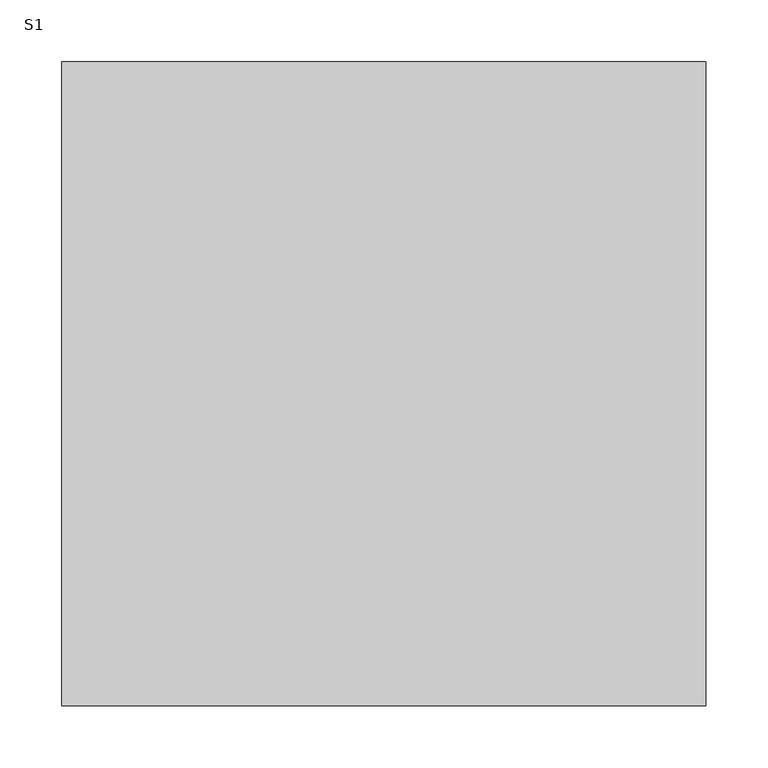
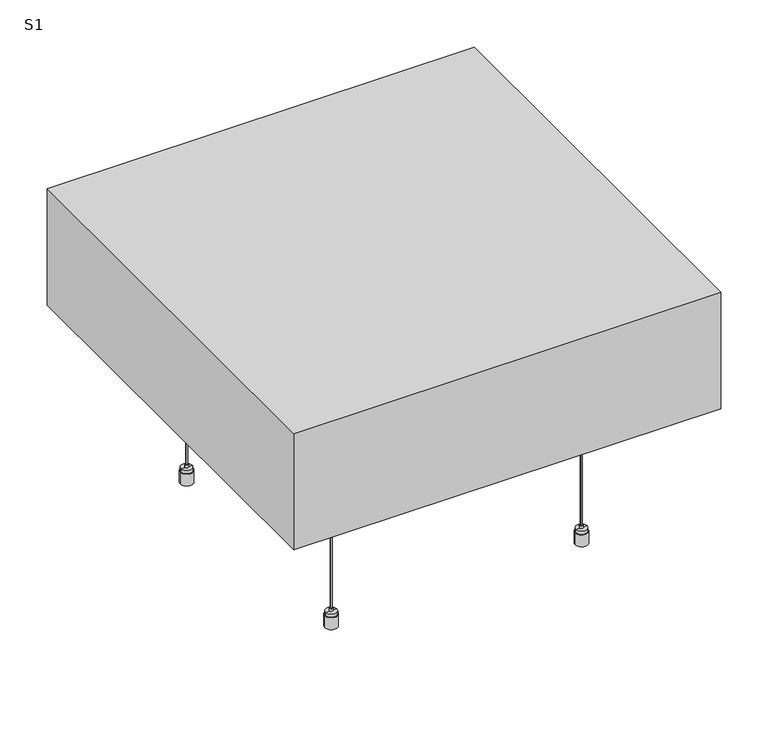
"""IFC4 building model written with IfcOpenShell, lengths in millimetres: proxy geometry, OWA Corpus : S1."""

from ifc_helpers import new_model, si_unit, point, frame, frame_2d, origin, place, context, project, spatial, polyline, circle_curve, trimmed, segment, composite_curve, outline, extrude, faceted_brep, source, transform, mapped, element, save
from ifc_brep_helpers import plane_surface, cylinder_surface, revolved_surface, advanced_brep


def s1_dd011107(model_context):
    return source(origin(), model_context, "Body", "SolidModel", [
        advanced_brep(
        [(-281.0, -152.5, 0.0), (-273.2593825, -152.5, 0.0), (-288.7406175, -152.5, 0.0), (-273.2593825, -152.5, 15.0), (-288.7406175, -152.5, 15.0), (-274.1843825, -152.5, 15.0), (-287.8156175, -152.5, 15.0), (-274.1843825, -152.5, 19.0), (-287.8156175, -152.5, 19.0), (-278.9343825, -152.5, 19.0), (-283.0656175, -152.5, 19.0), (-278.9343825, -152.5, 22.546183), (-283.0656175, -152.5, 22.546183), (-281.0, -152.5, 22.546183)],
        [
            (0, 1),
            (1, 2, circle_curve(frame((-281.0, -152.5, 0.0), z_axis=(0.0, 0.0, -1.0), x_axis=(-1.0, 0.0, 0.0)), 7.7406175)),
            (2, 0),
            (2, 1, circle_curve(frame((-281.0, -152.5, 0.0), z_axis=(0.0, 0.0, -1.0), x_axis=(-1.0, 0.0, 0.0)), 7.7406175)),
            (1, 3),
            (3, 4, circle_curve(frame((-281.0, -152.5, 15.0), z_axis=(0.0, 0.0, -1.0), x_axis=(-1.0, 0.0, 0.0)), 7.7406175)),
            (4, 2),
            (4, 3, circle_curve(frame((-281.0, -152.5, 15.0), z_axis=(0.0, 0.0, -1.0), x_axis=(-1.0, 0.0, 0.0)), 7.7406175)),
            (3, 5),
            (5, 6, circle_curve(frame((-281.0, -152.5, 15.0), z_axis=(0.0, 0.0, -1.0), x_axis=(-1.0, 0.0, 0.0)), 6.8156175)),
            (6, 4),
            (6, 5, circle_curve(frame((-281.0, -152.5, 15.0), z_axis=(0.0, 0.0, -1.0), x_axis=(-1.0, 0.0, 0.0)), 6.8156175)),
            (5, 7),
            (7, 8, circle_curve(frame((-281.0, -152.5, 19.0), z_axis=(0.0, 0.0, -1.0), x_axis=(-1.0, 0.0, 0.0)), 6.8156175)),
            (8, 6),
            (8, 7, circle_curve(frame((-281.0, -152.5, 19.0), z_axis=(0.0, 0.0, -1.0), x_axis=(-1.0, 0.0, 0.0)), 6.8156175)),
            (7, 9),
            (9, 10, circle_curve(frame((-281.0, -152.5, 19.0), z_axis=(0.0, 0.0, -1.0), x_axis=(-1.0, 0.0, 0.0)), 2.0656175)),
            (10, 8),
            (10, 9, circle_curve(frame((-281.0, -152.5, 19.0), z_axis=(0.0, 0.0, -1.0), x_axis=(-1.0, 0.0, 0.0)), 2.0656175)),
            (9, 11),
            (11, 12, circle_curve(frame((-281.0, -152.5, 22.546183), z_axis=(0.0, 0.0, -1.0), x_axis=(-1.0, 0.0, 0.0)), 2.0656175)),
            (12, 10),
            (12, 11, circle_curve(frame((-281.0, -152.5, 22.546183), z_axis=(0.0, 0.0, -1.0), x_axis=(-1.0, 0.0, 0.0)), 2.0656175)),
            (11, 13),
            (13, 12),
        ],
        [
            plane_surface(frame((-281.0, -152.5, 0.0), z_axis=(0.0, 0.0, -1.0), x_axis=(-1.0, 0.0, 0.0))),
            cylinder_surface(frame((-281.0, -152.5, -10.0), z_axis=(0.0, 0.0, -1.0), x_axis=(-1.0, 0.0, 0.0)), 7.7406175),
            plane_surface(frame((-281.0, -152.5, 15.0), z_axis=(0.0, 0.0, 1.0), x_axis=(-1.0, 0.0, 0.0))),
            cylinder_surface(frame((-281.0, -152.5, -10.0), z_axis=(0.0, 0.0, -1.0), x_axis=(-1.0, 0.0, 0.0)), 6.8156175),
            plane_surface(frame((-281.0, -152.5, 19.0), z_axis=(0.0, 0.0, 1.0), x_axis=(-1.0, 0.0, 0.0))),
            cylinder_surface(frame((-281.0, -152.5, -10.0), z_axis=(0.0, 0.0, -1.0), x_axis=(-1.0, 0.0, 0.0)), 2.0656175),
            plane_surface(frame((-281.0, -152.5, 22.546183), z_axis=(0.0, 0.0, 1.0), x_axis=(-1.0, 0.0, 0.0))),
        ],
        [
            (0, [[1, 2, 3]]),
            (0, [[-3, 4, -1]]),
            (1, [[5, 6, 7, -2]]),
            (1, [[-7, 8, -5, -4]]),
            (2, [[9, 10, 11, -6]]),
            (2, [[-11, 12, -9, -8]]),
            (3, [[13, 14, 15, -10]]),
            (3, [[-15, 16, -13, -12]]),
            (4, [[17, 18, 19, -14]]),
            (4, [[-19, 20, -17, -16]]),
            (5, [[21, 22, 23, -18]]),
            (5, [[-23, 24, -21, -20]]),
            (6, [[25, 26, -22]]),
            (6, [[-26, -25, -24]]),
        ],
    ),
        advanced_brep(
        [(-278.7615389, -152.5, 278.8211737), (-278.6339453, -152.5, 282.8711737), (-283.3660547, -152.5, 282.8711737), (-283.2384611, -152.5, 278.8211737), (-276.1339453, -152.5, 282.8711737), (-285.8660547, -152.5, 282.8711737), (-276.1339453, -152.5, 308.1211737), (-285.8660547, -152.5, 308.1211737), (-265.1339453, -152.5, 308.1211737), (-296.8660547, -152.5, 308.1211737), (-265.1339453, -152.5, 310.0), (-296.8660547, -152.5, 310.0), (-281.0, -152.5, 310.0), (-281.0, -152.5, 278.8211737)],
        [
            (0, 1),
            (1, 2, circle_curve(frame((-281.0, -152.5, 282.8711737), z_axis=(0.0, 0.0, -1.0), x_axis=(-1.0, 0.0, 0.0)), 2.3660547)),
            (2, 3),
            (3, 0, circle_curve(frame((-281.0, -152.5, 278.8211737), z_axis=(0.0, 0.0, 1.0), x_axis=(-1.0, 0.0, 0.0)), 2.2384611)),
            (2, 1, circle_curve(frame((-281.0, -152.5, 282.8711737), z_axis=(0.0, 0.0, -1.0), x_axis=(-1.0, 0.0, 0.0)), 2.3660547)),
            (0, 3, circle_curve(frame((-281.0, -152.5, 278.8211737), z_axis=(0.0, 0.0, 1.0), x_axis=(-1.0, 0.0, 0.0)), 2.2384611)),
            (1, 4),
            (4, 5, circle_curve(frame((-281.0, -152.5, 282.8711737), z_axis=(0.0, 0.0, -1.0), x_axis=(-1.0, 0.0, 0.0)), 4.8660547)),
            (5, 2),
            (5, 4, circle_curve(frame((-281.0, -152.5, 282.8711737), z_axis=(0.0, 0.0, -1.0), x_axis=(-1.0, 0.0, 0.0)), 4.8660547)),
            (4, 6),
            (6, 7, circle_curve(frame((-281.0, -152.5, 308.1211737), z_axis=(0.0, 0.0, -1.0), x_axis=(-1.0, 0.0, 0.0)), 4.8660547)),
            (7, 5),
            (7, 6, circle_curve(frame((-281.0, -152.5, 308.1211737), z_axis=(0.0, 0.0, -1.0), x_axis=(-1.0, 0.0, 0.0)), 4.8660547)),
            (6, 8),
            (8, 9, circle_curve(frame((-281.0, -152.5, 308.1211737), z_axis=(0.0, 0.0, -1.0), x_axis=(-1.0, 0.0, 0.0)), 15.8660547)),
            (9, 7),
            (9, 8, circle_curve(frame((-281.0, -152.5, 308.1211737), z_axis=(0.0, 0.0, -1.0), x_axis=(-1.0, 0.0, 0.0)), 15.8660547)),
            (8, 10),
            (10, 11, circle_curve(frame((-281.0, -152.5, 310.0), z_axis=(0.0, 0.0, -1.0), x_axis=(-1.0, 0.0, 0.0)), 15.8660547)),
            (11, 9),
            (11, 10, circle_curve(frame((-281.0, -152.5, 310.0), z_axis=(0.0, 0.0, -1.0), x_axis=(-1.0, 0.0, 0.0)), 15.8660547)),
            (10, 12),
            (12, 11),
            (13, 0),
            (3, 13),
        ],
        [
            revolved_surface(polyline([(-283.3660547, -152.5, 282.8711737), (-283.2384611, -152.5, 278.8211737)]), (-281.0, -152.5, 311.8401096), (0.0, 0.0, -1.0)),
            plane_surface(frame((-281.0, -152.5, 282.8711737), z_axis=(0.0, 0.0, -1.0), x_axis=(-1.0, 0.0, 0.0))),
            cylinder_surface(frame((-281.0, -152.5, 311.8401096), z_axis=(0.0, 0.0, -1.0), x_axis=(-1.0, 0.0, 0.0)), 4.8660547),
            plane_surface(frame((-281.0, -152.5, 308.1211737), z_axis=(0.0, 0.0, -1.0), x_axis=(-1.0, 0.0, 0.0))),
            cylinder_surface(frame((-281.0, -152.5, 311.8401096), z_axis=(0.0, 0.0, -1.0), x_axis=(-1.0, 0.0, 0.0)), 15.8660547),
            plane_surface(frame((-281.0, -152.5, 310.0), z_axis=(0.0, 0.0, 1.0), x_axis=(-1.0, 0.0, 0.0))),
            plane_surface(frame((-281.0, -152.5, 278.8211737), z_axis=(0.0, 0.0, -1.0), x_axis=(-1.0, 0.0, 0.0))),
        ],
        [
            (0, [[1, 2, 3, 4]]),
            (0, [[-3, 5, -1, 6]]),
            (1, [[7, 8, 9, -2]]),
            (1, [[-9, 10, -7, -5]]),
            (2, [[11, 12, 13, -8]]),
            (2, [[-13, 14, -11, -10]]),
            (3, [[15, 16, 17, -12]]),
            (3, [[-17, 18, -15, -14]]),
            (4, [[19, 20, 21, -16]]),
            (4, [[-21, 22, -19, -18]]),
            (5, [[23, 24, -20]]),
            (5, [[-24, -23, -22]]),
            (6, [[25, -4, 26]]),
            (6, [[-26, -6, -25]]),
        ],
    ),
        extrude(outline(composite_curve([segment(trimmed(circle_curve(frame_2d((-281.0, -152.5)), 1.0), [point((-282.0, -152.5))], [point((-280.0, -152.5))], False, "CARTESIAN"), True, "CONTINUOUS"), segment(trimmed(circle_curve(frame_2d((-281.0, -152.5)), 1.0), [point((-280.0, -152.5))], [point((-282.0, -152.5))], False, "CARTESIAN"), True, "CONTINUOUS")], self_intersect=False)), frame((0.0, 0.0, 22.546183), z_axis=(0.0, 0.0, 1.0), x_axis=(1.0, 0.0, 0.0)), (0.0, 0.0, 1.0), 256.2749908),
        advanced_brep(
        [(-281.0, 152.5, 0.0), (-288.7406175, 152.5, 0.0), (-273.2593825, 152.5, 0.0), (-288.7406175, 152.5, 15.0), (-273.2593825, 152.5, 15.0), (-287.8156175, 152.5, 15.0), (-274.1843825, 152.5, 15.0), (-287.8156175, 152.5, 19.0), (-274.1843825, 152.5, 19.0), (-283.0656175, 152.5, 19.0), (-278.9343825, 152.5, 19.0), (-283.0656175, 152.5, 22.546183), (-278.9343825, 152.5, 22.546183), (-281.0, 152.5, 22.546183)],
        [
            (0, 1),
            (1, 2, circle_curve(frame((-281.0, 152.5, 0.0), z_axis=(0.0, 0.0, -1.0), x_axis=(-1.0, 0.0, 0.0)), 7.7406175)),
            (2, 0),
            (2, 1, circle_curve(frame((-281.0, 152.5, 0.0), z_axis=(0.0, 0.0, -1.0), x_axis=(-1.0, 0.0, 0.0)), 7.7406175)),
            (1, 3),
            (3, 4, circle_curve(frame((-281.0, 152.5, 15.0), z_axis=(0.0, 0.0, -1.0), x_axis=(-1.0, 0.0, 0.0)), 7.7406175)),
            (4, 2),
            (4, 3, circle_curve(frame((-281.0, 152.5, 15.0), z_axis=(0.0, 0.0, -1.0), x_axis=(-1.0, 0.0, 0.0)), 7.7406175)),
            (3, 5),
            (5, 6, circle_curve(frame((-281.0, 152.5, 15.0), z_axis=(0.0, 0.0, -1.0), x_axis=(-1.0, 0.0, 0.0)), 6.8156175)),
            (6, 4),
            (6, 5, circle_curve(frame((-281.0, 152.5, 15.0), z_axis=(0.0, 0.0, -1.0), x_axis=(-1.0, 0.0, 0.0)), 6.8156175)),
            (5, 7),
            (7, 8, circle_curve(frame((-281.0, 152.5, 19.0), z_axis=(0.0, 0.0, -1.0), x_axis=(-1.0, 0.0, 0.0)), 6.8156175)),
            (8, 6),
            (8, 7, circle_curve(frame((-281.0, 152.5, 19.0), z_axis=(0.0, 0.0, -1.0), x_axis=(-1.0, 0.0, 0.0)), 6.8156175)),
            (7, 9),
            (9, 10, circle_curve(frame((-281.0, 152.5, 19.0), z_axis=(0.0, 0.0, -1.0), x_axis=(-1.0, 0.0, 0.0)), 2.0656175)),
            (10, 8),
            (10, 9, circle_curve(frame((-281.0, 152.5, 19.0), z_axis=(0.0, 0.0, -1.0), x_axis=(-1.0, 0.0, 0.0)), 2.0656175)),
            (9, 11),
            (11, 12, circle_curve(frame((-281.0, 152.5, 22.546183), z_axis=(0.0, 0.0, -1.0), x_axis=(-1.0, 0.0, 0.0)), 2.0656175)),
            (12, 10),
            (12, 11, circle_curve(frame((-281.0, 152.5, 22.546183), z_axis=(0.0, 0.0, -1.0), x_axis=(-1.0, 0.0, 0.0)), 2.0656175)),
            (11, 13),
            (13, 12),
        ],
        [
            plane_surface(frame((-281.0, 152.5, 0.0), z_axis=(0.0, 0.0, -1.0), x_axis=(-1.0, 0.0, 0.0))),
            cylinder_surface(frame((-281.0, 152.5, -10.0), z_axis=(0.0, 0.0, -1.0), x_axis=(-1.0, 0.0, 0.0)), 7.7406175),
            plane_surface(frame((-281.0, 152.5, 15.0), z_axis=(0.0, 0.0, 1.0), x_axis=(-1.0, 0.0, 0.0))),
            cylinder_surface(frame((-281.0, 152.5, -10.0), z_axis=(0.0, 0.0, -1.0), x_axis=(-1.0, 0.0, 0.0)), 6.8156175),
            plane_surface(frame((-281.0, 152.5, 19.0), z_axis=(0.0, 0.0, 1.0), x_axis=(-1.0, 0.0, 0.0))),
            cylinder_surface(frame((-281.0, 152.5, -10.0), z_axis=(0.0, 0.0, -1.0), x_axis=(-1.0, 0.0, 0.0)), 2.0656175),
            plane_surface(frame((-281.0, 152.5, 22.546183), z_axis=(0.0, 0.0, 1.0), x_axis=(-1.0, 0.0, 0.0))),
        ],
        [
            (0, [[1, 2, 3]]),
            (0, [[-3, 4, -1]]),
            (1, [[-2, 5, 6, 7]]),
            (1, [[-4, -7, 8, -5]]),
            (2, [[-6, 9, 10, 11]]),
            (2, [[-8, -11, 12, -9]]),
            (3, [[-10, 13, 14, 15]]),
            (3, [[-12, -15, 16, -13]]),
            (4, [[-14, 17, 18, 19]]),
            (4, [[-16, -19, 20, -17]]),
            (5, [[-18, 21, 22, 23]]),
            (5, [[-20, -23, 24, -21]]),
            (6, [[-22, 25, 26]]),
            (6, [[-24, -26, -25]]),
        ],
    ),
        advanced_brep(
        [(-278.7615389, 152.5, 278.8211737), (-283.2384611, 152.5, 278.8211737), (-283.3660547, 152.5, 282.8711737), (-278.6339453, 152.5, 282.8711737), (-285.8660547, 152.5, 282.8711737), (-276.1339453, 152.5, 282.8711737), (-285.8660547, 152.5, 308.1211737), (-276.1339453, 152.5, 308.1211737), (-296.8660547, 152.5, 308.1211737), (-265.1339453, 152.5, 308.1211737), (-296.8660547, 152.5, 310.0), (-265.1339453, 152.5, 310.0), (-281.0, 152.5, 310.0), (-281.0, 152.5, 278.8211737)],
        [
            (0, 1, circle_curve(frame((-281.0, 152.5, 278.8211737), z_axis=(0.0, 0.0, 1.0), x_axis=(-1.0, 0.0, 0.0)), 2.2384611)),
            (1, 2),
            (2, 3, circle_curve(frame((-281.0, 152.5, 282.8711737), z_axis=(0.0, 0.0, -1.0), x_axis=(-1.0, 0.0, 0.0)), 2.3660547)),
            (3, 0),
            (1, 0, circle_curve(frame((-281.0, 152.5, 278.8211737), z_axis=(0.0, 0.0, 1.0), x_axis=(-1.0, 0.0, 0.0)), 2.2384611)),
            (3, 2, circle_curve(frame((-281.0, 152.5, 282.8711737), z_axis=(0.0, 0.0, -1.0), x_axis=(-1.0, 0.0, 0.0)), 2.3660547)),
            (2, 4),
            (4, 5, circle_curve(frame((-281.0, 152.5, 282.8711737), z_axis=(0.0, 0.0, -1.0), x_axis=(-1.0, 0.0, 0.0)), 4.8660547)),
            (5, 3),
            (5, 4, circle_curve(frame((-281.0, 152.5, 282.8711737), z_axis=(0.0, 0.0, -1.0), x_axis=(-1.0, 0.0, 0.0)), 4.8660547)),
            (4, 6),
            (6, 7, circle_curve(frame((-281.0, 152.5, 308.1211737), z_axis=(0.0, 0.0, -1.0), x_axis=(-1.0, 0.0, 0.0)), 4.8660547)),
            (7, 5),
            (7, 6, circle_curve(frame((-281.0, 152.5, 308.1211737), z_axis=(0.0, 0.0, -1.0), x_axis=(-1.0, 0.0, 0.0)), 4.8660547)),
            (6, 8),
            (8, 9, circle_curve(frame((-281.0, 152.5, 308.1211737), z_axis=(0.0, 0.0, -1.0), x_axis=(-1.0, 0.0, 0.0)), 15.8660547)),
            (9, 7),
            (9, 8, circle_curve(frame((-281.0, 152.5, 308.1211737), z_axis=(0.0, 0.0, -1.0), x_axis=(-1.0, 0.0, 0.0)), 15.8660547)),
            (8, 10),
            (10, 11, circle_curve(frame((-281.0, 152.5, 310.0), z_axis=(0.0, 0.0, -1.0), x_axis=(-1.0, 0.0, 0.0)), 15.8660547)),
            (11, 9),
            (11, 10, circle_curve(frame((-281.0, 152.5, 310.0), z_axis=(0.0, 0.0, -1.0), x_axis=(-1.0, 0.0, 0.0)), 15.8660547)),
            (10, 12),
            (12, 11),
            (13, 1),
            (0, 13),
        ],
        [
            revolved_surface(polyline([(-283.3660547, 152.5, 282.8711737), (-283.2384611, 152.5, 278.8211737)]), (-281.0, 152.5, 311.8401096), (0.0, 0.0, -1.0)),
            plane_surface(frame((-281.0, 152.5, 282.8711737), z_axis=(0.0, 0.0, -1.0), x_axis=(-1.0, 0.0, 0.0))),
            cylinder_surface(frame((-281.0, 152.5, 311.8401096), z_axis=(0.0, 0.0, -1.0), x_axis=(-1.0, 0.0, 0.0)), 4.8660547),
            plane_surface(frame((-281.0, 152.5, 308.1211737), z_axis=(0.0, 0.0, -1.0), x_axis=(-1.0, 0.0, 0.0))),
            cylinder_surface(frame((-281.0, 152.5, 311.8401096), z_axis=(0.0, 0.0, -1.0), x_axis=(-1.0, 0.0, 0.0)), 15.8660547),
            plane_surface(frame((-281.0, 152.5, 310.0), z_axis=(0.0, 0.0, 1.0), x_axis=(-1.0, 0.0, 0.0))),
            plane_surface(frame((-281.0, 152.5, 278.8211737), z_axis=(0.0, 0.0, -1.0), x_axis=(-1.0, 0.0, 0.0))),
        ],
        [
            (0, [[1, 2, 3, 4]]),
            (0, [[5, -4, 6, -2]]),
            (1, [[-3, 7, 8, 9]]),
            (1, [[-6, -9, 10, -7]]),
            (2, [[-8, 11, 12, 13]]),
            (2, [[-10, -13, 14, -11]]),
            (3, [[-12, 15, 16, 17]]),
            (3, [[-14, -17, 18, -15]]),
            (4, [[-16, 19, 20, 21]]),
            (4, [[-18, -21, 22, -19]]),
            (5, [[-20, 23, 24]]),
            (5, [[-22, -24, -23]]),
            (6, [[25, -1, 26]]),
            (6, [[-26, -5, -25]]),
        ],
    ),
        extrude(outline(composite_curve([segment(trimmed(circle_curve(frame_2d((-281.0, 152.5)), 1.0), [point((-282.0, 152.5))], [point((-280.0, 152.5))], False, "CARTESIAN"), True, "CONTINUOUS"), segment(trimmed(circle_curve(frame_2d((-281.0, 152.5)), 1.0), [point((-280.0, 152.5))], [point((-282.0, 152.5))], False, "CARTESIAN"), True, "CONTINUOUS")], self_intersect=False)), frame((0.0, 0.0, 22.546183), z_axis=(0.0, 0.0, 1.0), x_axis=(1.0, 0.0, 0.0)), (0.0, 0.0, 1.0), 256.2749908),
        advanced_brep(
        [(-586.0, -152.5, 0.0), (-578.2593825, -152.5, 0.0), (-593.7406175, -152.5, 0.0), (-578.2593825, -152.5, 15.0), (-593.7406175, -152.5, 15.0), (-579.1843825, -152.5, 15.0), (-592.8156175, -152.5, 15.0), (-579.1843825, -152.5, 19.0), (-592.8156175, -152.5, 19.0), (-583.9343825, -152.5, 19.0), (-588.0656175, -152.5, 19.0), (-583.9343825, -152.5, 22.546183), (-588.0656175, -152.5, 22.546183), (-586.0, -152.5, 22.546183)],
        [
            (0, 1),
            (1, 2, circle_curve(frame((-586.0, -152.5, 0.0), z_axis=(0.0, 0.0, -1.0), x_axis=(-1.0, 0.0, 0.0)), 7.7406175)),
            (2, 0),
            (2, 1, circle_curve(frame((-586.0, -152.5, 0.0), z_axis=(0.0, 0.0, -1.0), x_axis=(-1.0, 0.0, 0.0)), 7.7406175)),
            (1, 3),
            (3, 4, circle_curve(frame((-586.0, -152.5, 15.0), z_axis=(0.0, 0.0, -1.0), x_axis=(-1.0, 0.0, 0.0)), 7.7406175)),
            (4, 2),
            (4, 3, circle_curve(frame((-586.0, -152.5, 15.0), z_axis=(0.0, 0.0, -1.0), x_axis=(-1.0, 0.0, 0.0)), 7.7406175)),
            (3, 5),
            (5, 6, circle_curve(frame((-586.0, -152.5, 15.0), z_axis=(0.0, 0.0, -1.0), x_axis=(-1.0, 0.0, 0.0)), 6.8156175)),
            (6, 4),
            (6, 5, circle_curve(frame((-586.0, -152.5, 15.0), z_axis=(0.0, 0.0, -1.0), x_axis=(-1.0, 0.0, 0.0)), 6.8156175)),
            (5, 7),
            (7, 8, circle_curve(frame((-586.0, -152.5, 19.0), z_axis=(0.0, 0.0, -1.0), x_axis=(-1.0, 0.0, 0.0)), 6.8156175)),
            (8, 6),
            (8, 7, circle_curve(frame((-586.0, -152.5, 19.0), z_axis=(0.0, 0.0, -1.0), x_axis=(-1.0, 0.0, 0.0)), 6.8156175)),
            (7, 9),
            (9, 10, circle_curve(frame((-586.0, -152.5, 19.0), z_axis=(0.0, 0.0, -1.0), x_axis=(-1.0, 0.0, 0.0)), 2.0656175)),
            (10, 8),
            (10, 9, circle_curve(frame((-586.0, -152.5, 19.0), z_axis=(0.0, 0.0, -1.0), x_axis=(-1.0, 0.0, 0.0)), 2.0656175)),
            (9, 11),
            (11, 12, circle_curve(frame((-586.0, -152.5, 22.546183), z_axis=(0.0, 0.0, -1.0), x_axis=(-1.0, 0.0, 0.0)), 2.0656175)),
            (12, 10),
            (12, 11, circle_curve(frame((-586.0, -152.5, 22.546183), z_axis=(0.0, 0.0, -1.0), x_axis=(-1.0, 0.0, 0.0)), 2.0656175)),
            (11, 13),
            (13, 12),
        ],
        [
            plane_surface(frame((-586.0, -152.5, 0.0), z_axis=(0.0, 0.0, -1.0), x_axis=(-1.0, 0.0, 0.0))),
            cylinder_surface(frame((-586.0, -152.5, -10.0), z_axis=(0.0, 0.0, -1.0), x_axis=(-1.0, 0.0, 0.0)), 7.7406175),
            plane_surface(frame((-586.0, -152.5, 15.0), z_axis=(0.0, 0.0, 1.0), x_axis=(-1.0, 0.0, 0.0))),
            cylinder_surface(frame((-586.0, -152.5, -10.0), z_axis=(0.0, 0.0, -1.0), x_axis=(-1.0, 0.0, 0.0)), 6.8156175),
            plane_surface(frame((-586.0, -152.5, 19.0), z_axis=(0.0, 0.0, 1.0), x_axis=(-1.0, 0.0, 0.0))),
            cylinder_surface(frame((-586.0, -152.5, -10.0), z_axis=(0.0, 0.0, -1.0), x_axis=(-1.0, 0.0, 0.0)), 2.0656175),
            plane_surface(frame((-586.0, -152.5, 22.546183), z_axis=(0.0, 0.0, 1.0), x_axis=(-1.0, 0.0, 0.0))),
        ],
        [
            (0, [[1, 2, 3]]),
            (0, [[-3, 4, -1]]),
            (1, [[5, 6, 7, -2]]),
            (1, [[-7, 8, -5, -4]]),
            (2, [[9, 10, 11, -6]]),
            (2, [[-11, 12, -9, -8]]),
            (3, [[13, 14, 15, -10]]),
            (3, [[-15, 16, -13, -12]]),
            (4, [[17, 18, 19, -14]]),
            (4, [[-19, 20, -17, -16]]),
            (5, [[21, 22, 23, -18]]),
            (5, [[-23, 24, -21, -20]]),
            (6, [[25, 26, -22]]),
            (6, [[-26, -25, -24]]),
        ],
    ),
        advanced_brep(
        [(-583.7615389, -152.5, 278.8211737), (-583.6339453, -152.5, 282.8711737), (-588.3660547, -152.5, 282.8711737), (-588.2384611, -152.5, 278.8211737), (-581.1339453, -152.5, 282.8711737), (-590.8660547, -152.5, 282.8711737), (-581.1339453, -152.5, 308.1211737), (-590.8660547, -152.5, 308.1211737), (-570.1339453, -152.5, 308.1211737), (-601.8660547, -152.5, 308.1211737), (-570.1339453, -152.5, 310.0), (-601.8660547, -152.5, 310.0), (-586.0, -152.5, 310.0), (-586.0, -152.5, 278.8211737)],
        [
            (0, 1),
            (1, 2, circle_curve(frame((-586.0, -152.5, 282.8711737), z_axis=(0.0, 0.0, -1.0), x_axis=(-1.0, 0.0, 0.0)), 2.3660547)),
            (2, 3),
            (3, 0, circle_curve(frame((-586.0, -152.5, 278.8211737), z_axis=(0.0, 0.0, 1.0), x_axis=(-1.0, 0.0, 0.0)), 2.2384611)),
            (2, 1, circle_curve(frame((-586.0, -152.5, 282.8711737), z_axis=(0.0, 0.0, -1.0), x_axis=(-1.0, 0.0, 0.0)), 2.3660547)),
            (0, 3, circle_curve(frame((-586.0, -152.5, 278.8211737), z_axis=(0.0, 0.0, 1.0), x_axis=(-1.0, 0.0, 0.0)), 2.2384611)),
            (1, 4),
            (4, 5, circle_curve(frame((-586.0, -152.5, 282.8711737), z_axis=(0.0, 0.0, -1.0), x_axis=(-1.0, 0.0, 0.0)), 4.8660547)),
            (5, 2),
            (5, 4, circle_curve(frame((-586.0, -152.5, 282.8711737), z_axis=(0.0, 0.0, -1.0), x_axis=(-1.0, 0.0, 0.0)), 4.8660547)),
            (4, 6),
            (6, 7, circle_curve(frame((-586.0, -152.5, 308.1211737), z_axis=(0.0, 0.0, -1.0), x_axis=(-1.0, 0.0, 0.0)), 4.8660547)),
            (7, 5),
            (7, 6, circle_curve(frame((-586.0, -152.5, 308.1211737), z_axis=(0.0, 0.0, -1.0), x_axis=(-1.0, 0.0, 0.0)), 4.8660547)),
            (6, 8),
            (8, 9, circle_curve(frame((-586.0, -152.5, 308.1211737), z_axis=(0.0, 0.0, -1.0), x_axis=(-1.0, 0.0, 0.0)), 15.8660547)),
            (9, 7),
            (9, 8, circle_curve(frame((-586.0, -152.5, 308.1211737), z_axis=(0.0, 0.0, -1.0), x_axis=(-1.0, 0.0, 0.0)), 15.8660547)),
            (8, 10),
            (10, 11, circle_curve(frame((-586.0, -152.5, 310.0), z_axis=(0.0, 0.0, -1.0), x_axis=(-1.0, 0.0, 0.0)), 15.8660547)),
            (11, 9),
            (11, 10, circle_curve(frame((-586.0, -152.5, 310.0), z_axis=(0.0, 0.0, -1.0), x_axis=(-1.0, 0.0, 0.0)), 15.8660547)),
            (10, 12),
            (12, 11),
            (13, 0),
            (3, 13),
        ],
        [
            revolved_surface(polyline([(-588.3660547, -152.5, 282.8711737), (-588.2384611, -152.5, 278.8211737)]), (-586.0, -152.5, 311.8401096), (0.0, 0.0, -1.0)),
            plane_surface(frame((-586.0, -152.5, 282.8711737), z_axis=(0.0, 0.0, -1.0), x_axis=(-1.0, 0.0, 0.0))),
            cylinder_surface(frame((-586.0, -152.5, 311.8401096), z_axis=(0.0, 0.0, -1.0), x_axis=(-1.0, 0.0, 0.0)), 4.8660547),
            plane_surface(frame((-586.0, -152.5, 308.1211737), z_axis=(0.0, 0.0, -1.0), x_axis=(-1.0, 0.0, 0.0))),
            cylinder_surface(frame((-586.0, -152.5, 311.8401096), z_axis=(0.0, 0.0, -1.0), x_axis=(-1.0, 0.0, 0.0)), 15.8660547),
            plane_surface(frame((-586.0, -152.5, 310.0), z_axis=(0.0, 0.0, 1.0), x_axis=(-1.0, 0.0, 0.0))),
            plane_surface(frame((-586.0, -152.5, 278.8211737), z_axis=(0.0, 0.0, -1.0), x_axis=(-1.0, 0.0, 0.0))),
        ],
        [
            (0, [[1, 2, 3, 4]]),
            (0, [[-3, 5, -1, 6]]),
            (1, [[7, 8, 9, -2]]),
            (1, [[-9, 10, -7, -5]]),
            (2, [[11, 12, 13, -8]]),
            (2, [[-13, 14, -11, -10]]),
            (3, [[15, 16, 17, -12]]),
            (3, [[-17, 18, -15, -14]]),
            (4, [[19, 20, 21, -16]]),
            (4, [[-21, 22, -19, -18]]),
            (5, [[23, 24, -20]]),
            (5, [[-24, -23, -22]]),
            (6, [[25, -4, 26]]),
            (6, [[-26, -6, -25]]),
        ],
    ),
        extrude(outline(composite_curve([segment(trimmed(circle_curve(frame_2d((-586.0, -152.5)), 1.0), [point((-587.0, -152.5))], [point((-585.0, -152.5))], False, "CARTESIAN"), True, "CONTINUOUS"), segment(trimmed(circle_curve(frame_2d((-586.0, -152.5)), 1.0), [point((-585.0, -152.5))], [point((-587.0, -152.5))], False, "CARTESIAN"), True, "CONTINUOUS")], self_intersect=False)), frame((0.0, 0.0, 22.546183), z_axis=(0.0, 0.0, 1.0), x_axis=(1.0, 0.0, 0.0)), (0.0, 0.0, 1.0), 256.2749908),
        advanced_brep(
        [(-586.0, 152.5, 0.0), (-593.7406175, 152.5, 0.0), (-578.2593825, 152.5, 0.0), (-593.7406175, 152.5, 15.0), (-578.2593825, 152.5, 15.0), (-592.8156175, 152.5, 15.0), (-579.1843825, 152.5, 15.0), (-592.8156175, 152.5, 19.0), (-579.1843825, 152.5, 19.0), (-588.0656175, 152.5, 19.0), (-583.9343825, 152.5, 19.0), (-588.0656175, 152.5, 22.546183), (-583.9343825, 152.5, 22.546183), (-586.0, 152.5, 22.546183)],
        [
            (0, 1),
            (1, 2, circle_curve(frame((-586.0, 152.5, 0.0), z_axis=(0.0, 0.0, -1.0), x_axis=(-1.0, 0.0, 0.0)), 7.7406175)),
            (2, 0),
            (2, 1, circle_curve(frame((-586.0, 152.5, 0.0), z_axis=(0.0, 0.0, -1.0), x_axis=(-1.0, 0.0, 0.0)), 7.7406175)),
            (1, 3),
            (3, 4, circle_curve(frame((-586.0, 152.5, 15.0), z_axis=(0.0, 0.0, -1.0), x_axis=(-1.0, 0.0, 0.0)), 7.7406175)),
            (4, 2),
            (4, 3, circle_curve(frame((-586.0, 152.5, 15.0), z_axis=(0.0, 0.0, -1.0), x_axis=(-1.0, 0.0, 0.0)), 7.7406175)),
            (3, 5),
            (5, 6, circle_curve(frame((-586.0, 152.5, 15.0), z_axis=(0.0, 0.0, -1.0), x_axis=(-1.0, 0.0, 0.0)), 6.8156175)),
            (6, 4),
            (6, 5, circle_curve(frame((-586.0, 152.5, 15.0), z_axis=(0.0, 0.0, -1.0), x_axis=(-1.0, 0.0, 0.0)), 6.8156175)),
            (5, 7),
            (7, 8, circle_curve(frame((-586.0, 152.5, 19.0), z_axis=(0.0, 0.0, -1.0), x_axis=(-1.0, 0.0, 0.0)), 6.8156175)),
            (8, 6),
            (8, 7, circle_curve(frame((-586.0, 152.5, 19.0), z_axis=(0.0, 0.0, -1.0), x_axis=(-1.0, 0.0, 0.0)), 6.8156175)),
            (7, 9),
            (9, 10, circle_curve(frame((-586.0, 152.5, 19.0), z_axis=(0.0, 0.0, -1.0), x_axis=(-1.0, 0.0, 0.0)), 2.0656175)),
            (10, 8),
            (10, 9, circle_curve(frame((-586.0, 152.5, 19.0), z_axis=(0.0, 0.0, -1.0), x_axis=(-1.0, 0.0, 0.0)), 2.0656175)),
            (9, 11),
            (11, 12, circle_curve(frame((-586.0, 152.5, 22.546183), z_axis=(0.0, 0.0, -1.0), x_axis=(-1.0, 0.0, 0.0)), 2.0656175)),
            (12, 10),
            (12, 11, circle_curve(frame((-586.0, 152.5, 22.546183), z_axis=(0.0, 0.0, -1.0), x_axis=(-1.0, 0.0, 0.0)), 2.0656175)),
            (11, 13),
            (13, 12),
        ],
        [
            plane_surface(frame((-586.0, 152.5, 0.0), z_axis=(0.0, 0.0, -1.0), x_axis=(-1.0, 0.0, 0.0))),
            cylinder_surface(frame((-586.0, 152.5, -10.0), z_axis=(0.0, 0.0, -1.0), x_axis=(-1.0, 0.0, 0.0)), 7.7406175),
            plane_surface(frame((-586.0, 152.5, 15.0), z_axis=(0.0, 0.0, 1.0), x_axis=(-1.0, 0.0, 0.0))),
            cylinder_surface(frame((-586.0, 152.5, -10.0), z_axis=(0.0, 0.0, -1.0), x_axis=(-1.0, 0.0, 0.0)), 6.8156175),
            plane_surface(frame((-586.0, 152.5, 19.0), z_axis=(0.0, 0.0, 1.0), x_axis=(-1.0, 0.0, 0.0))),
            cylinder_surface(frame((-586.0, 152.5, -10.0), z_axis=(0.0, 0.0, -1.0), x_axis=(-1.0, 0.0, 0.0)), 2.0656175),
            plane_surface(frame((-586.0, 152.5, 22.546183), z_axis=(0.0, 0.0, 1.0), x_axis=(-1.0, 0.0, 0.0))),
        ],
        [
            (0, [[1, 2, 3]]),
            (0, [[-3, 4, -1]]),
            (1, [[-2, 5, 6, 7]]),
            (1, [[-4, -7, 8, -5]]),
            (2, [[-6, 9, 10, 11]]),
            (2, [[-8, -11, 12, -9]]),
            (3, [[-10, 13, 14, 15]]),
            (3, [[-12, -15, 16, -13]]),
            (4, [[-14, 17, 18, 19]]),
            (4, [[-16, -19, 20, -17]]),
            (5, [[-18, 21, 22, 23]]),
            (5, [[-20, -23, 24, -21]]),
            (6, [[-22, 25, 26]]),
            (6, [[-24, -26, -25]]),
        ],
    ),
        advanced_brep(
        [(-583.7615389, 152.5, 278.8211737), (-588.2384611, 152.5, 278.8211737), (-588.3660547, 152.5, 282.8711737), (-583.6339453, 152.5, 282.8711737), (-590.8660547, 152.5, 282.8711737), (-581.1339453, 152.5, 282.8711737), (-590.8660547, 152.5, 308.1211737), (-581.1339453, 152.5, 308.1211737), (-601.8660547, 152.5, 308.1211737), (-570.1339453, 152.5, 308.1211737), (-601.8660547, 152.5, 310.0), (-570.1339453, 152.5, 310.0), (-586.0, 152.5, 310.0), (-586.0, 152.5, 278.8211737)],
        [
            (0, 1, circle_curve(frame((-586.0, 152.5, 278.8211737), z_axis=(0.0, 0.0, 1.0), x_axis=(-1.0, 0.0, 0.0)), 2.2384611)),
            (1, 2),
            (2, 3, circle_curve(frame((-586.0, 152.5, 282.8711737), z_axis=(0.0, 0.0, -1.0), x_axis=(-1.0, 0.0, 0.0)), 2.3660547)),
            (3, 0),
            (1, 0, circle_curve(frame((-586.0, 152.5, 278.8211737), z_axis=(0.0, 0.0, 1.0), x_axis=(-1.0, 0.0, 0.0)), 2.2384611)),
            (3, 2, circle_curve(frame((-586.0, 152.5, 282.8711737), z_axis=(0.0, 0.0, -1.0), x_axis=(-1.0, 0.0, 0.0)), 2.3660547)),
            (2, 4),
            (4, 5, circle_curve(frame((-586.0, 152.5, 282.8711737), z_axis=(0.0, 0.0, -1.0), x_axis=(-1.0, 0.0, 0.0)), 4.8660547)),
            (5, 3),
            (5, 4, circle_curve(frame((-586.0, 152.5, 282.8711737), z_axis=(0.0, 0.0, -1.0), x_axis=(-1.0, 0.0, 0.0)), 4.8660547)),
            (4, 6),
            (6, 7, circle_curve(frame((-586.0, 152.5, 308.1211737), z_axis=(0.0, 0.0, -1.0), x_axis=(-1.0, 0.0, 0.0)), 4.8660547)),
            (7, 5),
            (7, 6, circle_curve(frame((-586.0, 152.5, 308.1211737), z_axis=(0.0, 0.0, -1.0), x_axis=(-1.0, 0.0, 0.0)), 4.8660547)),
            (6, 8),
            (8, 9, circle_curve(frame((-586.0, 152.5, 308.1211737), z_axis=(0.0, 0.0, -1.0), x_axis=(-1.0, 0.0, 0.0)), 15.8660547)),
            (9, 7),
            (9, 8, circle_curve(frame((-586.0, 152.5, 308.1211737), z_axis=(0.0, 0.0, -1.0), x_axis=(-1.0, 0.0, 0.0)), 15.8660547)),
            (8, 10),
            (10, 11, circle_curve(frame((-586.0, 152.5, 310.0), z_axis=(0.0, 0.0, -1.0), x_axis=(-1.0, 0.0, 0.0)), 15.8660547)),
            (11, 9),
            (11, 10, circle_curve(frame((-586.0, 152.5, 310.0), z_axis=(0.0, 0.0, -1.0), x_axis=(-1.0, 0.0, 0.0)), 15.8660547)),
            (10, 12),
            (12, 11),
            (13, 1),
            (0, 13),
        ],
        [
            revolved_surface(polyline([(-588.3660547, 152.5, 282.8711737), (-588.2384611, 152.5, 278.8211737)]), (-586.0, 152.5, 311.8401096), (0.0, 0.0, -1.0)),
            plane_surface(frame((-586.0, 152.5, 282.8711737), z_axis=(0.0, 0.0, -1.0), x_axis=(-1.0, 0.0, 0.0))),
            cylinder_surface(frame((-586.0, 152.5, 311.8401096), z_axis=(0.0, 0.0, -1.0), x_axis=(-1.0, 0.0, 0.0)), 4.8660547),
            plane_surface(frame((-586.0, 152.5, 308.1211737), z_axis=(0.0, 0.0, -1.0), x_axis=(-1.0, 0.0, 0.0))),
            cylinder_surface(frame((-586.0, 152.5, 311.8401096), z_axis=(0.0, 0.0, -1.0), x_axis=(-1.0, 0.0, 0.0)), 15.8660547),
            plane_surface(frame((-586.0, 152.5, 310.0), z_axis=(0.0, 0.0, 1.0), x_axis=(-1.0, 0.0, 0.0))),
            plane_surface(frame((-586.0, 152.5, 278.8211737), z_axis=(0.0, 0.0, -1.0), x_axis=(-1.0, 0.0, 0.0))),
        ],
        [
            (0, [[1, 2, 3, 4]]),
            (0, [[5, -4, 6, -2]]),
            (1, [[-3, 7, 8, 9]]),
            (1, [[-6, -9, 10, -7]]),
            (2, [[-8, 11, 12, 13]]),
            (2, [[-10, -13, 14, -11]]),
            (3, [[-12, 15, 16, 17]]),
            (3, [[-14, -17, 18, -15]]),
            (4, [[-16, 19, 20, 21]]),
            (4, [[-18, -21, 22, -19]]),
            (5, [[-20, 23, 24]]),
            (5, [[-22, -24, -23]]),
            (6, [[25, -1, 26]]),
            (6, [[-26, -5, -25]]),
        ],
    ),
        extrude(outline(composite_curve([segment(trimmed(circle_curve(frame_2d((-586.0, 152.5)), 1.0), [point((-587.0, 152.5))], [point((-585.0, 152.5))], False, "CARTESIAN"), True, "CONTINUOUS"), segment(trimmed(circle_curve(frame_2d((-586.0, 152.5)), 1.0), [point((-585.0, 152.5))], [point((-587.0, 152.5))], False, "CARTESIAN"), True, "CONTINUOUS")], self_intersect=False)), frame((0.0, 0.0, 22.546183), z_axis=(0.0, 0.0, 1.0), x_axis=(1.0, 0.0, 0.0)), (0.0, 0.0, 1.0), 256.2749908),
        faceted_brep([(-173.5, 260.0, 350.0), (-693.5, 260.0, 350.0), (-693.5, -260.0, 350.0), (-173.5, -260.0, 350.0), (-213.5, 220.0, 310.0), (-213.5, -220.0, 310.0), (-653.5, -220.0, 310.0), (-653.5, 220.0, 310.0), (-173.5, 260.0, 200.0), (-693.5, 260.0, 200.0), (-693.5, -260.0, 200.0), (-173.5, -260.0, 200.0), (-213.5, 220.0, 200.0), (-653.5, 220.0, 200.0), (-653.5, -220.0, 200.0), (-213.5, -220.0, 200.0)], [[[0, 1, 2, 3]], [[4, 5, 6, 7]], [[1, 0, 8, 9]], [[2, 1, 9, 10]], [[3, 2, 10, 11]], [[8, 0, 3, 11]], [[8, 11, 10, 9], [12, 13, 14, 15]], [[12, 15, 5, 4]], [[15, 14, 6, 5]], [[14, 13, 7, 6]], [[13, 12, 4, 7]]]),
    ])


if __name__ == "__main__":
    model = new_model("IFC4")
    model_context = context("Model", 3, world=origin())
    ifc_project = project(units=[si_unit("LENGTHUNIT", "METRE", prefix="MILLI")], contexts=[model_context])
    site = spatial("IfcSite", under=ifc_project)
    building = spatial("IfcBuilding", under=site)
    placement = place(None, origin())
    s1_shape = s1_dd011107(model_context)
    element("IfcBuildingElementProxy", 1, Name="OWA Corpus : S1", ObjectType="OWA Corpus : S1", at=placement, inside=building, context=model_context, shape_type="MappedRepresentation", body=[
        mapped(s1_shape, transform((0.0, 0.0, 0.0), x_axis=(1.0, 0.0, 0.0), y_axis=(0.0, 1.0, 0.0), z_axis=(0.0, 0.0, 1.0))),
    ])
    save(model, "model.ifc")
